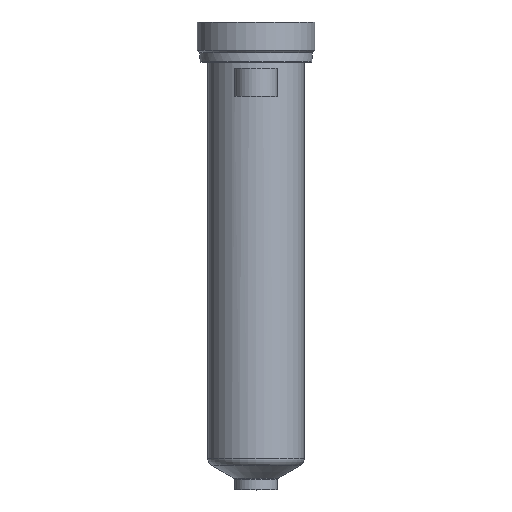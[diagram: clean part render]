
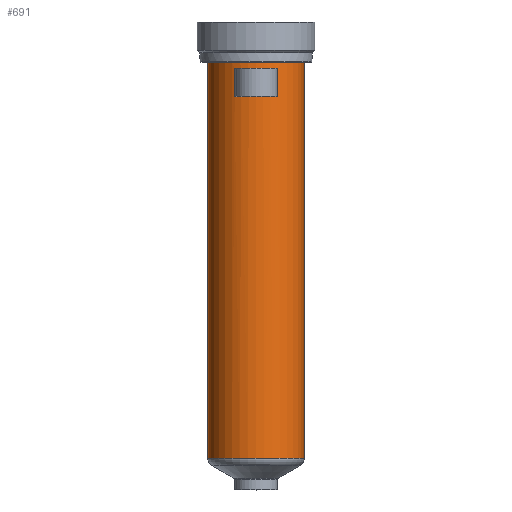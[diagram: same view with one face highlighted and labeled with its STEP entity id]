
A CAD part, top view. The second image highlights one B-rep face of the part: STEP entity #691.
In plain terms, the highlighted cylindrical face has radius 18 mm (diameter 36 mm), a partial arc.
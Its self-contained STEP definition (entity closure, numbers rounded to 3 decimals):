
#187=DIRECTION('',(0.,-1.,0.));
#188=VECTOR('',#187,148.206);
#189=CARTESIAN_POINT('',(18.,0.,0.));
#190=LINE('',#189,#188);
#191=CARTESIAN_POINT('',(0.,-148.206,0.));
#192=DIRECTION('',(0.,1.,0.));
#193=DIRECTION('',(-1.,0.,0.));
#194=AXIS2_PLACEMENT_3D('',#191,#192,#193);
#196=DIRECTION('',(0.,1.,0.));
#197=VECTOR('',#196,148.206);
#198=CARTESIAN_POINT('',(-18.,-148.206,0.));
#199=LINE('',#198,#197);
#200=CARTESIAN_POINT('',(0.,0.,0.));
#201=DIRECTION('',(0.,1.,0.));
#202=DIRECTION('',(-1.,0.,0.));
#203=AXIS2_PLACEMENT_3D('',#200,#201,#202);
#281=DIRECTION('',(0.,-1.,0.));
#282=VECTOR('',#281,10.5);
#283=CARTESIAN_POINT('',(-8.,-2.5,16.125));
#284=LINE('',#283,#282);
#285=CARTESIAN_POINT('',(0.,-13.,0.));
#286=DIRECTION('',(0.,1.,0.));
#287=DIRECTION('',(-0.444,0.,0.896));
#288=AXIS2_PLACEMENT_3D('',#285,#286,#287);
#311=CARTESIAN_POINT('',(0.,-2.5,0.));
#312=DIRECTION('',(0.,-1.,0.));
#313=DIRECTION('',(0.444,0.,0.896));
#314=AXIS2_PLACEMENT_3D('',#311,#312,#313);
#329=DIRECTION('',(0.,-1.,0.));
#330=VECTOR('',#329,10.5);
#331=CARTESIAN_POINT('',(8.,-2.5,16.125));
#332=LINE('',#331,#330);
#390=CARTESIAN_POINT('',(-18.,0.,0.));
#391=CARTESIAN_POINT('',(18.,0.,0.));
#392=VERTEX_POINT('',#390);
#393=VERTEX_POINT('',#391);
#402=CARTESIAN_POINT('',(-8.,-2.5,16.125));
#403=VERTEX_POINT('',#402);
#404=CARTESIAN_POINT('',(8.,-2.5,16.125));
#405=VERTEX_POINT('',#404);
#438=CARTESIAN_POINT('',(18.,-148.206,0.));
#439=VERTEX_POINT('',#438);
#448=CARTESIAN_POINT('',(-18.,-148.206,0.));
#449=VERTEX_POINT('',#448);
#450=CARTESIAN_POINT('',(-8.,-13.,16.125));
#451=CARTESIAN_POINT('',(8.,-13.,16.125));
#452=VERTEX_POINT('',#450);
#453=VERTEX_POINT('',#451);
#669=CARTESIAN_POINT('',(0.,16.4,0.));
#670=DIRECTION('',(0.,-1.,0.));
#671=DIRECTION('',(-1.,0.,0.));
#672=AXIS2_PLACEMENT_3D('',#669,#670,#671);
#673=CYLINDRICAL_SURFACE('',#672,18.);
#674=ORIENTED_EDGE('',*,*,#663,.T.);
#676=ORIENTED_EDGE('',*,*,#675,.F.);
#677=ORIENTED_EDGE('',*,*,#659,.T.);
#678=ORIENTED_EDGE('',*,*,#649,.T.);
#679=EDGE_LOOP('',(#674,#676,#677,#678));
#680=FACE_OUTER_BOUND('',#679,.F.);
#682=ORIENTED_EDGE('',*,*,#681,.T.);
#684=ORIENTED_EDGE('',*,*,#683,.T.);
#686=ORIENTED_EDGE('',*,*,#685,.F.);
#688=ORIENTED_EDGE('',*,*,#687,.T.);
#689=EDGE_LOOP('',(#682,#684,#686,#688));
#690=FACE_BOUND('',#689,.F.);
#691=ADVANCED_FACE('',(#680,#690),#673,.T.);
#195=CIRCLE('',#194,18.);
#204=CIRCLE('',#203,18.);
#289=CIRCLE('',#288,18.);
#315=CIRCLE('',#314,18.);
#649=EDGE_CURVE('',#392,#393,#204,.T.);
#659=EDGE_CURVE('',#449,#392,#199,.T.);
#663=EDGE_CURVE('',#393,#439,#190,.T.);
#675=EDGE_CURVE('',#449,#439,#195,.T.);
#681=EDGE_CURVE('',#403,#452,#284,.T.);
#683=EDGE_CURVE('',#452,#453,#289,.T.);
#685=EDGE_CURVE('',#405,#453,#332,.T.);
#687=EDGE_CURVE('',#405,#403,#315,.T.);
